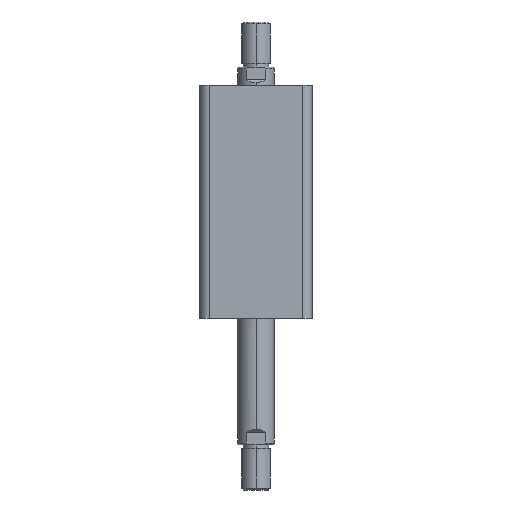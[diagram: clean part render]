
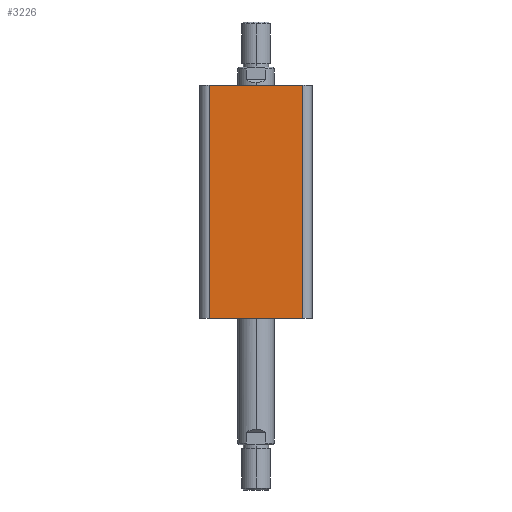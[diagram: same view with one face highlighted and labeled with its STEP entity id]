
A CAD part, left-side view. The second image highlights one B-rep face of the part: STEP entity #3226.
In plain terms, the highlighted planar face has unit normal (-1, 0, 0).
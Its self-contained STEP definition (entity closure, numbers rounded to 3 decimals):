
#187 = CARTESIAN_POINT ( 'NONE',  ( -31., 31., 0. ) ) ;
#188 = DIRECTION ( 'NONE',  ( 0., -1., 0. ) ) ;
#427 = CARTESIAN_POINT ( 'NONE',  ( -31., 26., 129. ) ) ;
#435 = DIRECTION ( 'NONE',  ( 0., 0., -1. ) ) ;
#437 = CARTESIAN_POINT ( 'NONE',  ( -31., -26., 129. ) ) ;
#438 = DIRECTION ( 'NONE',  ( 0., 0., 1. ) ) ;
#439 = CARTESIAN_POINT ( 'NONE',  ( -31., 31., 129. ) ) ;
#440 = DIRECTION ( 'NONE',  ( 0., -1., 0. ) ) ;
#1023 = ORIENTED_EDGE ( 'NONE', *, *, #3281, .T. ) ;
#1024 = ORIENTED_EDGE ( 'NONE', *, *, #2805, .T. ) ;
#1025 = ORIENTED_EDGE ( 'NONE', *, *, #2806, .F. ) ;
#1026 = ORIENTED_EDGE ( 'NONE', *, *, #2803, .T. ) ;
#1285 = LINE ( 'NONE', #427, #1290 ) ;
#1290 = VECTOR ( 'NONE', #435, 1000. ) ;
#1291 = LINE ( 'NONE', #437, #1294 ) ;
#1293 = LINE ( 'NONE', #439, #1296 ) ;
#1294 = VECTOR ( 'NONE', #438, 1000. ) ;
#1296 = VECTOR ( 'NONE', #440, 1000. ) ;
#1506 = FACE_OUTER_BOUND ( 'NONE', #2432, .T. ) ;
#1650 = VERTEX_POINT ( 'NONE', #2921 ) ;
#1666 = VERTEX_POINT ( 'NONE', #2942 ) ;
#1687 = VERTEX_POINT ( 'NONE', #2963 ) ;
#1696 = VERTEX_POINT ( 'NONE', #2972 ) ;
#1910 = AXIS2_PLACEMENT_3D ( 'NONE', #2670, #2680, #2681 ) ;
#2073 = LINE ( 'NONE', #187, #2076 ) ;
#2076 = VECTOR ( 'NONE', #188, 1000. ) ;
#2432 = EDGE_LOOP ( 'NONE', ( #1023, #1024, #1025, #1026 ) ) ;
#2670 = CARTESIAN_POINT ( 'NONE',  ( -31., 31., 129. ) ) ;
#2678 = PLANE ( 'NONE',  #1910 ) ;
#2680 = DIRECTION ( 'NONE',  ( 1., 0., 0. ) ) ;
#2681 = DIRECTION ( 'NONE',  ( 0., 1., 0. ) ) ;
#2803 = EDGE_CURVE ( 'NONE', #1666, #1687, #1285, .T. ) ;
#2805 = EDGE_CURVE ( 'NONE', #1650, #1696, #1291, .T. ) ;
#2806 = EDGE_CURVE ( 'NONE', #1666, #1696, #1293, .T. ) ;
#2921 = CARTESIAN_POINT ( 'NONE',  ( -31., -26., 0. ) ) ;
#2942 = CARTESIAN_POINT ( 'NONE',  ( -31., 26., 129. ) ) ;
#2963 = CARTESIAN_POINT ( 'NONE',  ( -31., 26., 0. ) ) ;
#2972 = CARTESIAN_POINT ( 'NONE',  ( -31., -26., 129. ) ) ;
#3226 = ADVANCED_FACE ( 'NONE', ( #1506 ), #2678, .F. ) ;
#3281 = EDGE_CURVE ( 'NONE', #1687, #1650, #2073, .T. ) ;
